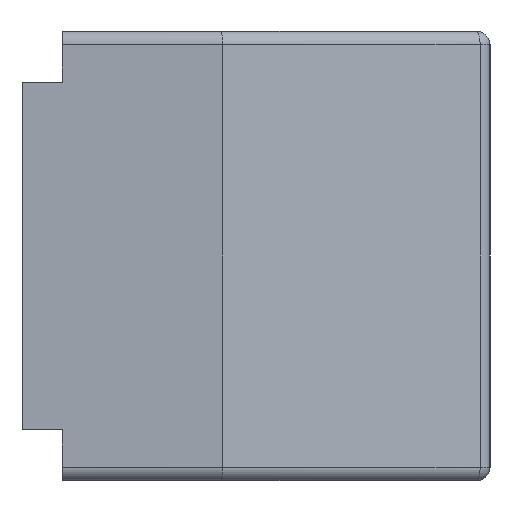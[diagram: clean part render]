
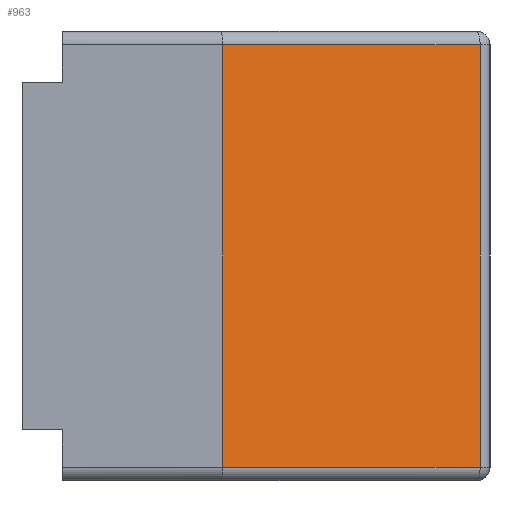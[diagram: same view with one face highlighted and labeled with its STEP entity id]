
A CAD part, left-side view. The second image highlights one B-rep face of the part: STEP entity #963.
In plain terms, the highlighted planar face has unit normal (-0.966, -0.259, 0).
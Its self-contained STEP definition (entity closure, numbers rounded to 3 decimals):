
#737=CARTESIAN_POINT('',(-25.7,-6.,-7.9));
#738=VERTEX_POINT('',#737);
#762=CARTESIAN_POINT('',(-23.12,-15.629,-7.9));
#763=VERTEX_POINT('',#762);
#771=CARTESIAN_POINT('',(-23.12,-15.629,-7.9));
#772=DIRECTION('',(-0.259,0.966,0.));
#773=VECTOR('',#772,9.969);
#774=LINE('',#771,#773);
#775=EDGE_CURVE('',#763,#738,#774,.T.);
#933=CARTESIAN_POINT('',(-23.021,-16.0,0.0));
#934=DIRECTION('',(-0.966,-0.259,0.0));
#935=DIRECTION('',(0.0,0.0,1.0));
#936=AXIS2_PLACEMENT_3D('',#933,#934,#935);
#937=PLANE('',#936);
#938=ORIENTED_EDGE('',*,*,#775,.F.);
#939=CARTESIAN_POINT('',(-23.12,-15.629,7.9));
#940=VERTEX_POINT('',#939);
#941=CARTESIAN_POINT('',(-23.12,-15.629,7.9));
#942=DIRECTION('',(0.0,0.0,-1.0));
#943=VECTOR('',#942,15.8);
#944=LINE('',#941,#943);
#945=EDGE_CURVE('',#940,#763,#944,.T.);
#946=ORIENTED_EDGE('',*,*,#945,.F.);
#947=CARTESIAN_POINT('',(-25.7,-6.,7.9));
#948=VERTEX_POINT('',#947);
#949=CARTESIAN_POINT('',(-25.7,-6.,7.9));
#950=DIRECTION('',(0.259,-0.966,0.0));
#951=VECTOR('',#950,9.969);
#952=LINE('',#949,#951);
#953=EDGE_CURVE('',#948,#940,#952,.T.);
#954=ORIENTED_EDGE('',*,*,#953,.F.);
#955=CARTESIAN_POINT('',(-25.7,-6.,-7.9));
#956=DIRECTION('',(0.0,0.0,1.0));
#957=VECTOR('',#956,15.8);
#958=LINE('',#955,#957);
#959=EDGE_CURVE('',#738,#948,#958,.T.);
#960=ORIENTED_EDGE('',*,*,#959,.F.);
#961=EDGE_LOOP('',(#938,#946,#954,#960));
#962=FACE_OUTER_BOUND('',#961,.T.);
#963=ADVANCED_FACE('',(#962),#937,.T.);
